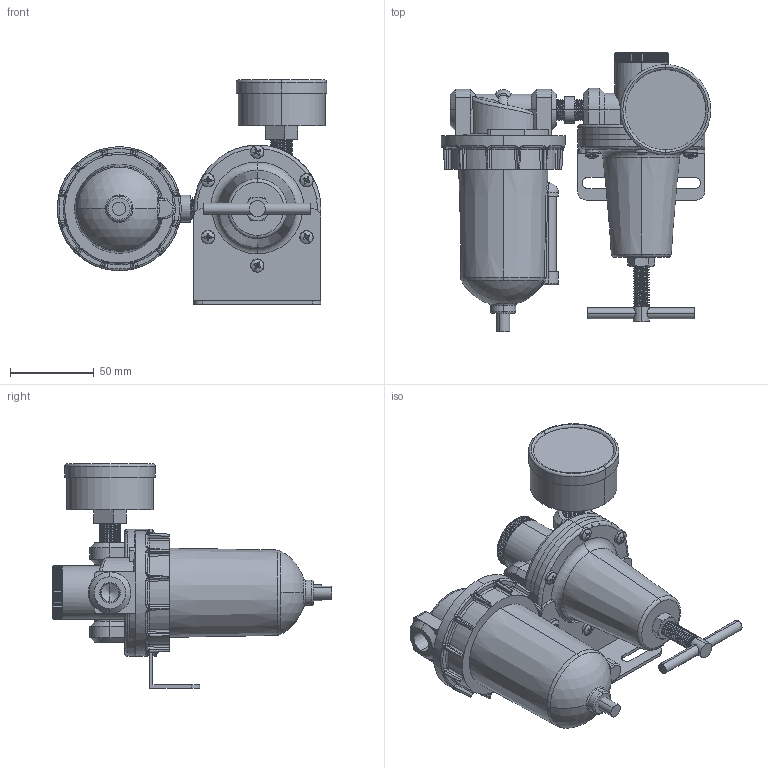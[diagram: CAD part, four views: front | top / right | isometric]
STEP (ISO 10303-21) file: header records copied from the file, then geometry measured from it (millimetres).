
FILE_DESCRIPTION (( 'STEP AP203' ), '1' );
FILE_NAME ('U628#W-02#YB#.STEP', '2016-01-14T17:27:43', ( '' ), ( '' ), 'SwSTEP 2.0', 'SolidWorks 2014', '' );
FILE_SCHEMA (( 'CONFIG_CONTROL_DESIGN' ));
Length unit declared in the file: millimetre
Products named in the file (20): U628#W-02#YB#; L606W-02-刻度計; R119-02-2; L606-W-06-5; R119-02-4; R119-02-5; 1-4-圓; 50-P-AD=1-4PT.SLDPRT; R119-02-1; R119-02-7; L606-W-02-下半部; F602W-02#YB#; F602-02-1; KW15Y57; R119-02-3; ISO 7045 - M4 x 16; 50-P-AD=1-4PT-2; R119-02; 50-P-AD=1-4PT-1; R119-02-6
Assembly tree (24 placements, depth 4):
  U628#W-02#YB#
    R119-02
      R119-02-1
      R119-02-2
      R119-02-3
      R119-02-4
      ISO 7045 - M4 x 16  x6
      R119-02-5
      R119-02-6
      R119-02-7
      KW15Y57
      50-P-AD=1-4PT.SLDPRT
        50-P-AD=1-4PT-1
        50-P-AD=1-4PT-2
    1-4-圓
    F602W-02#YB#
      F602-02-1
      L606-W-06-5
      L606-W-02-下半部
      L606W-02-刻度計
Bounding box: 161 x 167 x 134 mm (x, y, z)
Volume: 566308.5 mm3; surface area: 117345.3 mm2
Topology: 21 solids, 21 shells, 1209 faces, 2962 edges, 1765 vertices
Faces by surface type: plane 416, cylinder 297, cone 258, bspline 115, torus 78, sphere 45
Entity records: 44606 total; most frequent: CARTESIAN_POINT 19837, ORIENTED_EDGE 5008, DIRECTION 4428, EDGE_CURVE 2504, AXIS2_PLACEMENT_3D 1828, VERTEX_POINT 1510, EDGE_LOOP 1078, FACE_OUTER_BOUND 1039
